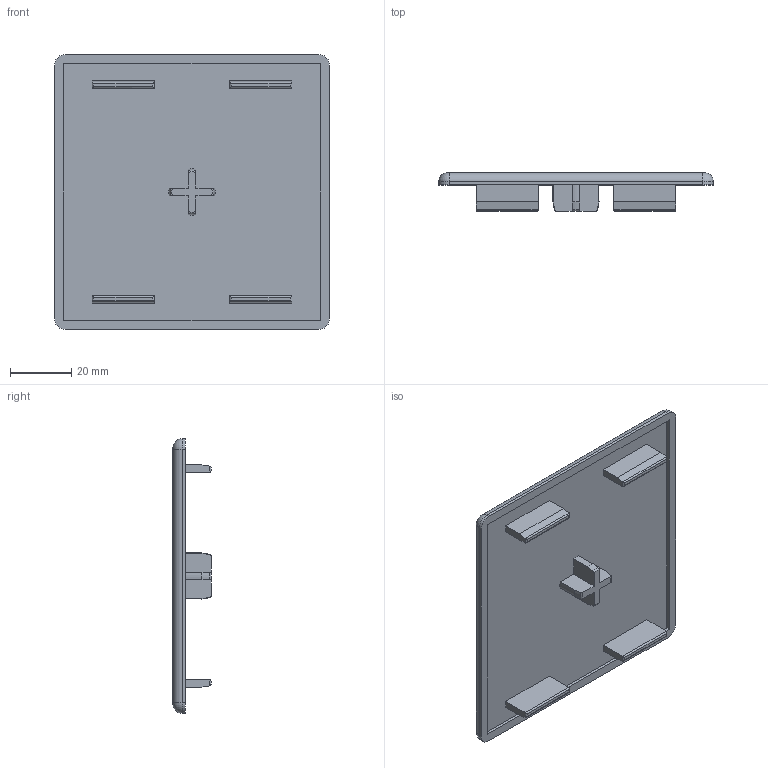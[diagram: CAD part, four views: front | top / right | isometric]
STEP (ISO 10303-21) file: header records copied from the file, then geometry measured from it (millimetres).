
FILE_DESCRIPTION(/* description */ ('STEP AP214'),/* implementation_level */ '2;1');
FILE_NAME(/* name */ '091207S05(high)',/* time_stamp */ '2025-04-03T15:23:38+02:00',/* author */ ('License CC BY-ND 4.0'),/* organization */ ('CADENAS'),/* preprocessor_version */ 'ST-DEVELOPER v19.3',/* originating_system */ 'PARTsolutions',/* authorisation */ ' ');
FILE_SCHEMA (('AUTOMOTIVE_DESIGN {1 0 10303 214 3 1 1}'));
Length unit declared in the file: millimetre
Products named in the file (1): 091207S05(high)
Bounding box: 90 x 12.5 x 90 mm (x, y, z)
Volume: 27051.7 mm3; surface area: 19671.5 mm2
Topology: 1 solids, 1 shells, 84 faces, 212 edges, 136 vertices
Faces by surface type: plane 44, cylinder 28, torus 8, cone 4
Entity records: 2554 total; most frequent: CARTESIAN_POINT 481, DIRECTION 426, ORIENTED_EDGE 424, EDGE_CURVE 212, AXIS2_PLACEMENT_3D 145, LINE 136, VECTOR 136, VERTEX_POINT 136
